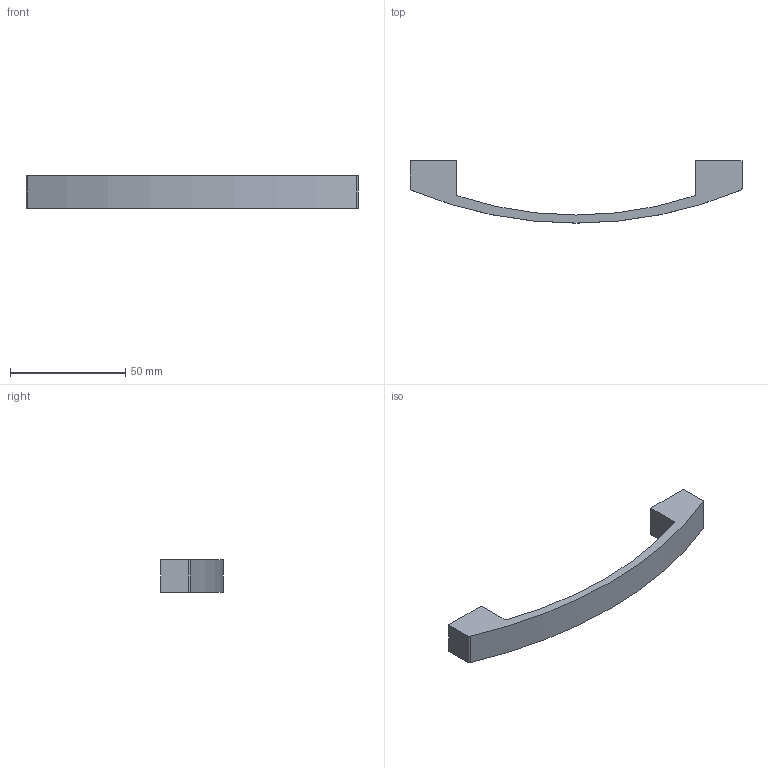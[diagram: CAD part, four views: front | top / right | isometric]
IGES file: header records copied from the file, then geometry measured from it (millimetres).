
Start section: Data from Parasolid IGES Translator 15.0.47, Copyright(c) 2006 Siemens P LM Software. All Rights Reserved.
Global section: file name: 9113210.igs; native system:  By UGS Corp.; preprocessor: XPlus GENERIC/IGES 3.0; author: Noname; organization: Noname; date: 20140122.144723; units: millimetre
Bounding box: 144 x 27 x 14 mm (x, y, z)
Surface area: 7227.4 mm2 (no closed solid volume)
Topology: 0 solids, 0 shells, 18 faces, 84 edges, 82 vertices
Faces by surface type: extrusion 10, revolution 8
